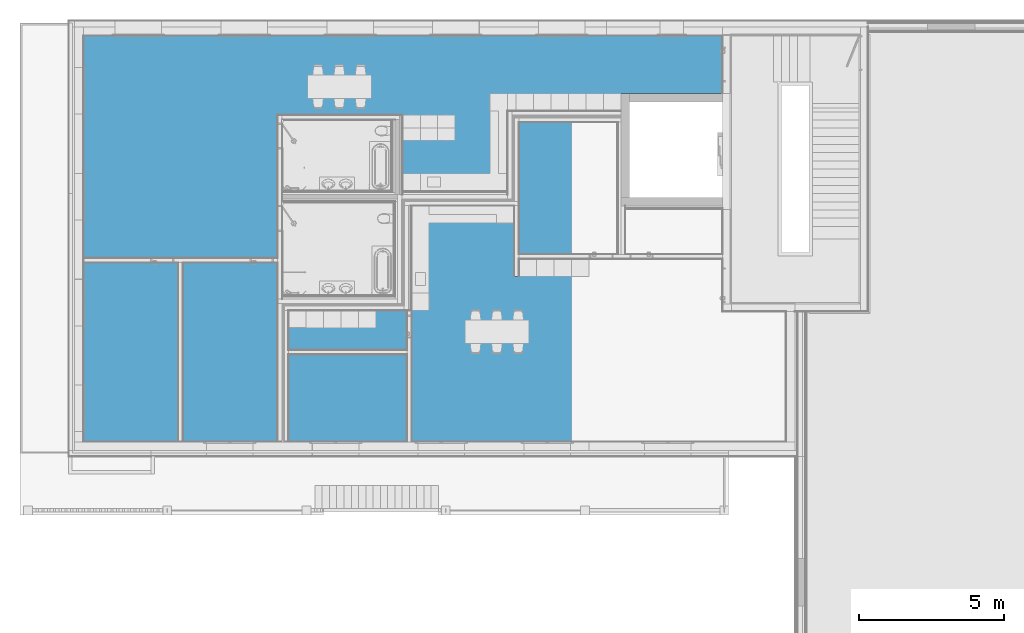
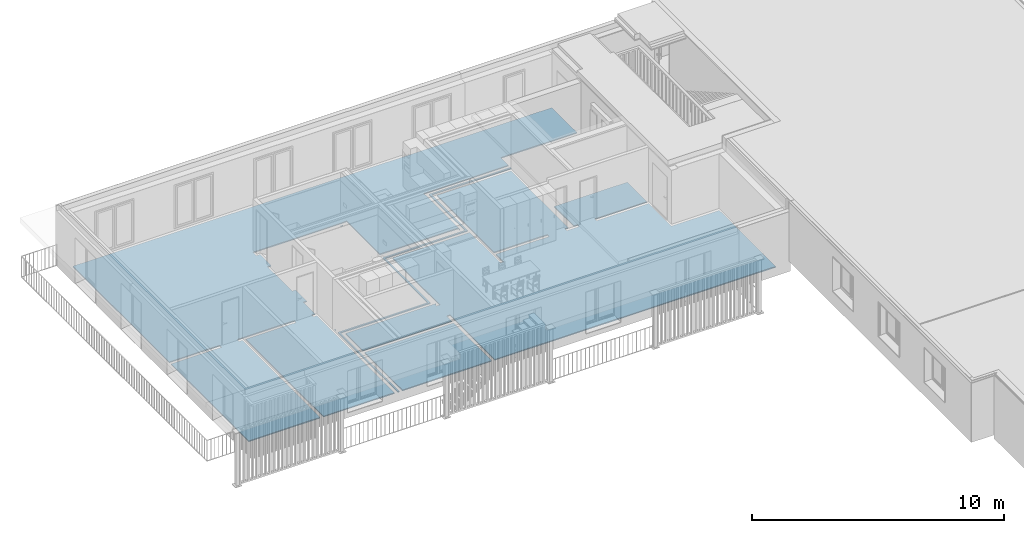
# One storey, part 10 of 34: 1 building element part, 1 element without a shape of its own.
"""IFC4 building model written with IfcOpenShell, lengths in millimetres."""

from ifc_helpers import new_model, entity, si_unit, converted_unit, derived_unit, direction, frame, origin_with_axes, place, context, subcontext, project, spatial, polygons, material, type_object, element, aggregate, save


model = new_model("IFC4")

# Units and contexts
model_context = context("Model", 3, precision=0.01, world=origin_with_axes(), true_north=direction((0.0, 1.0)))
body_context = subcontext(model_context, "Body", "Model", "MODEL_VIEW")
ifc_project = project(units=[si_unit("LENGTHUNIT", "METRE", prefix="MILLI"), si_unit("AREAUNIT", "SQUARE_METRE"), si_unit("VOLUMEUNIT", "CUBIC_METRE"), converted_unit("PLANEANGLEUNIT", "DEGREE", entity("IfcPlaneAngleMeasure", 0.0174532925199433), si_unit("PLANEANGLEUNIT", "RADIAN"), dimensions=[0, 0, 0, 0, 0, 0, 0]), converted_unit("TIMEUNIT", "Year", entity("IfcTimeMeasure", 31557600.0), si_unit("TIMEUNIT", "SECOND"), dimensions=[0, 0, 1, 0, 0, 0, 0]), si_unit("MASSUNIT", "GRAM", prefix="KILO"), si_unit("THERMODYNAMICTEMPERATUREUNIT", "DEGREE_CELSIUS"), si_unit("LUMINOUSINTENSITYUNIT", "LUMEN"), si_unit("ENERGYUNIT", "JOULE", prefix="MEGA"), derived_unit("THERMALCONDUCTANCEUNIT", [(si_unit("POWERUNIT", "WATT"), 1), (si_unit("LENGTHUNIT", "METRE"), -1), (si_unit("THERMODYNAMICTEMPERATUREUNIT", "KELVIN"), -1)]), derived_unit("SPECIFICHEATCAPACITYUNIT", [(si_unit("ENERGYUNIT", "JOULE"), 1), (si_unit("MASSUNIT", "GRAM", prefix="KILO"), -1), (si_unit("THERMODYNAMICTEMPERATUREUNIT", "KELVIN"), -1)]), derived_unit("MASSDENSITYUNIT", [(si_unit("MASSUNIT", "GRAM", prefix="KILO"), 1), (si_unit("VOLUMEUNIT", "CUBIC_METRE"), -1)])], contexts=[model_context])

# Site, building, storey
site_placement = place(None, origin_with_axes())
site = spatial("IfcSite", under=ifc_project, at=site_placement, Name="Gelände", CompositionType="ELEMENT")
building_placement = place(site_placement, origin_with_axes())
building = spatial("IfcBuilding", under=site, at=building_placement, Name="Gebäude", CompositionType="ELEMENT")
storey_placement = place(building_placement, frame((0.0, 0.0, 2900.0), z_axis=(0.0, 0.0, 1.0), x_axis=(1.0, 0.0, 0.0)))
storey = spatial("IfcBuildingStorey", under=building, at=storey_placement, Name="1.OG", CompositionType="ELEMENT", Elevation=2900.0)

# Covering, building element part
covering_type = type_object("IfcCoveringType", Name="Bodenaufbau Typ 01 150", PredefinedType="NOTDEFINED")
covering_placement = place(storey_placement, frame((-6561.004181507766, 37437.5972813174, 0.0), z_axis=(0.0, 0.0, 1.0), x_axis=(1.0, 0.0, 0.0)))
covering = element("IfcCovering", 1, at=covering_placement, inside=storey, type_object=covering_type, Name="Decke-007", PredefinedType="NOTDEFINED")
ifc_material = material(Name="Dämmung Innen")
building_element_part_placement = place(covering_placement, origin_with_axes())
building_element_part = element("IfcBuildingElementPart", 2, at=building_element_part_placement, material=ifc_material, Name="Dämmung Innen", PredefinedType="NOTDEFINED", context=body_context, shape_type="Tessellation", body=[
    polygons([(10621.77773059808, -5369.999999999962, 49.99999999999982), (10621.77773059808, -5359.999999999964, 49.99999999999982), (10611.77773059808, -5359.999999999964, 50.00000000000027), (10611.77773059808, -5369.999999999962, 49.99999999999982), (10621.77773059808, -5359.999999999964, 0.0), (10621.77773059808, -5369.999999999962, 0.0), (10611.77773059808, -5359.999999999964, 0.0), (10611.77773059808, -5369.999999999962, 0.0)], [[[1, 2, 3, 4]], [[5, 2, 1, 6]], [[2, 5, 7, 3]], [[3, 7, 8, 4]], [[6, 1, 4, 8]], [[5, 6, 8, 7]]], closed=True),
    polygons([(3419.999999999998, -7812.513021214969, 49.99999999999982), (3419.999999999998, -13980.00054054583, 50.00000000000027), (6683.999999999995, -13980.00054054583, 50.00000000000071), (6683.999999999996, -9223.223895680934, 49.99999999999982), (6683.999999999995, -9073.223895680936, 49.99999999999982), (6683.999999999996, -7812.513021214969, 49.99999999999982), (6533.999999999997, -7812.513021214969, 49.99999999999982), (6533.999999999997, -7662.513021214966, 49.99999999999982), (6683.999999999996, -7662.513021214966, 49.99999999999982), (6683.999999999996, -6734.99999999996, 49.99999999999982), (6843.999999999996, -6734.99999999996, 49.99999999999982), (6843.999999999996, -5844.99999999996, 49.99999999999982), (6683.999999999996, -5844.99999999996, 49.99999999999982), (6683.999999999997, -3898.533577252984, 49.99999999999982), (6843.999999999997, -3898.533577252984, 50.00000000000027), (6843.999999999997, -3008.533577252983, 49.99999999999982), (6683.999999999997, -3008.533577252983, 49.99999999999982), (6683.999999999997, -2743.533577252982, 49.99999999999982), (6833.999999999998, -2743.533577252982, 49.99999999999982), (10876.77773059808, -2743.533577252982, 49.99999999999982), (10876.77773059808, -2733.533577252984, 49.99999999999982), (10981.77773059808, -2733.533577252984, 49.99999999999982), (10981.77773059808, -5369.999999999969, 49.99999999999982), (14590.00162627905, -5369.999999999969, 49.99999999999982), (14590.00162627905, -5474.999999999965, 50.00000000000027), (14600.00162627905, -5474.999999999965, 49.99999999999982), (14600.00162627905, -2599.999999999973, 49.99999999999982), (14750.00162627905, -2599.999999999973, 49.99999999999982), (18490.00162627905, -2599.999999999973, 49.99999999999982), (18490.00162627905, -1989.999999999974, 49.99999999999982), (21980.00162627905, -1989.999999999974, 49.99999999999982), (21980.00162627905, 0.0, 49.99999999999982), (0.0, 0.0, 49.99999999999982), (0.0, -7662.51302121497, 49.99999999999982), (2309.999999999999, -7662.51302121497, 49.99999999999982), (2309.999999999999, -7812.513021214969, 49.99999999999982), (0.0, -7812.513021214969, 49.99999999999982), (0.0, -13980.00054054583, 49.99999999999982), (3269.999999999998, -13980.00054054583, 50.00000000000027), (3269.999999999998, -7812.513021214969, 50.00000000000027), (3110.0, -7812.513021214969, 49.99999999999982), (3110.0, -7662.51302121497, 49.99999999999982), (5733.999999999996, -7662.513021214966, 49.99999999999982), (5733.999999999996, -7812.513021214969, 49.99999999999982), (3419.999999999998, -7812.513021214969, 0.0), (3419.999999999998, -13980.00054054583, 0.0), (6683.999999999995, -13980.00054054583, 0.0), (6683.999999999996, -9223.223895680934, 0.0), (6683.999999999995, -9073.223895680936, 0.0), (6683.999999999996, -7812.513021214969, 0.0), (6533.999999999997, -7812.513021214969, 0.0), (6533.999999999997, -7662.513021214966, 0.0), (6683.999999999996, -7662.513021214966, 0.0), (6683.999999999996, -6734.99999999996, 0.0), (6843.999999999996, -6734.99999999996, 0.0), (6843.999999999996, -5844.99999999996, 0.0), (6683.999999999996, -5844.99999999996, 0.0), (6683.999999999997, -3898.533577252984, 0.0), (6843.999999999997, -3898.533577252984, 0.0), (6843.999999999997, -3008.533577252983, 0.0), (6683.999999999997, -3008.533577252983, 0.0), (6683.999999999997, -2743.533577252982, 0.0), (6833.999999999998, -2743.533577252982, 0.0), (10876.77773059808, -2743.533577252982, 0.0), (10876.77773059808, -2733.533577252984, 0.0), (10981.77773059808, -2733.533577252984, 0.0), (10981.77773059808, -5369.999999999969, 0.0), (14590.00162627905, -5369.999999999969, 0.0), (14590.00162627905, -5474.999999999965, 0.0), (14600.00162627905, -5474.999999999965, 0.0), (14600.00162627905, -2599.999999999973, 0.0), (14750.00162627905, -2599.999999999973, 0.0), (18490.00162627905, -2599.999999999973, 0.0), (18490.00162627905, -1989.999999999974, 0.0), (21980.00162627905, -1989.999999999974, 0.0), (21980.00162627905, 0.0, 0.0), (0.0, 0.0, 0.0), (0.0, -7662.51302121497, 0.0), (2309.999999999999, -7662.51302121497, 0.0), (2309.999999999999, -7812.513021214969, 0.0), (0.0, -7812.513021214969, 0.0), (0.0, -13980.00054054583, 0.0), (3269.999999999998, -13980.00054054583, 0.0), (3269.999999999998, -7812.513021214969, 0.0), (3110.0, -7812.513021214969, 0.0), (3110.0, -7662.51302121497, 0.0), (5733.999999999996, -7662.513021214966, 0.0), (5733.999999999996, -7812.513021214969, 0.0)], [[[1, 2, 3, 4, 5, 6, 7, 8, 9, 10, 11, 12, 13, 14, 15, 16, 17, 18, 19, 20, 21, 22, 23, 24, 25, 26, 27, 28, 29, 30, 31, 32, 33, 34, 35, 36, 37, 38, 39, 40, 41, 42, 43, 44]], [[2, 1, 45, 46]], [[2, 46, 47, 3]], [[48, 4, 3, 47]], [[4, 48, 49, 5]], [[5, 49, 50, 6]], [[6, 50, 51, 7]], [[8, 7, 51, 52]], [[53, 9, 8, 52]], [[10, 9, 53, 54]], [[11, 10, 54, 55]], [[11, 55, 56, 12]], [[57, 13, 12, 56]], [[14, 13, 57, 58]], [[15, 14, 58, 59]], [[15, 59, 60, 16]], [[61, 17, 16, 60]], [[18, 17, 61, 62]], [[63, 19, 18, 62]], [[64, 20, 19, 63]], [[21, 20, 64, 65]], [[66, 22, 21, 65]], [[23, 22, 66, 67]], [[23, 67, 68, 24]], [[24, 68, 69, 25]], [[25, 69, 70, 26]], [[26, 70, 71, 27]], [[72, 28, 27, 71]], [[28, 72, 73, 29]], [[29, 73, 74, 30]], [[30, 74, 75, 31]], [[31, 75, 76, 32]], [[32, 76, 77, 33]], [[78, 34, 33, 77]], [[35, 34, 78, 79]], [[36, 35, 79, 80]], [[37, 36, 80, 81]], [[37, 81, 82, 38]], [[83, 39, 38, 82]], [[84, 40, 39, 83]], [[40, 84, 85, 41]], [[42, 41, 85, 86]], [[43, 42, 86, 87]], [[44, 43, 87, 88]], [[45, 1, 44, 88]], [[46, 45, 88, 87, 86, 85, 84, 83, 82, 81, 80, 79, 78, 77, 76, 75, 74, 73, 72, 71, 70, 69, 68, 67, 66, 65, 64, 63, 62, 61, 60, 59, 58, 57, 56, 55, 54, 53, 52, 51, 50, 49, 48, 47]]], closed=True),
    polygons([(10726.77773059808, -2903.533577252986, 50.00000000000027), (10726.77773059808, -2893.533577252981, 50.00000000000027), (10611.77773059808, -2893.533577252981, 50.00000000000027), (10611.77773059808, -2903.533577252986, 50.00000000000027), (10726.77773059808, -2903.533577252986, 0.0), (10726.77773059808, -2893.533577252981, 0.0), (10611.77773059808, -2893.533577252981, 0.0), (10611.77773059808, -2903.533577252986, 0.0)], [[[1, 2, 3, 4]], [[1, 5, 6, 2]], [[2, 6, 7, 3]], [[8, 4, 3, 7]], [[5, 1, 4, 8]], [[5, 8, 7, 6]]], closed=True),
    polygons([(6843.999999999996, -9073.223895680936, 49.99999999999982), (6843.999999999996, -8958.223895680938, 50.00000000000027), (6833.999999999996, -8958.223895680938, 49.99999999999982), (6833.999999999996, -9073.223895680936, 49.99999999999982), (6843.999999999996, -9073.223895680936, 0.0), (6843.999999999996, -8958.223895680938, 0.0), (6833.999999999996, -8958.223895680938, 0.0), (6833.999999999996, -9073.223895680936, 0.0)], [[[1, 2, 3, 4]], [[2, 1, 5, 6]], [[2, 6, 7, 3]], [[8, 4, 3, 7]], [[5, 1, 4, 8]], [[5, 8, 7, 6]]], closed=True),
    polygons([(6903.999981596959, -13980.00054054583, 49.99999999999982), (6903.999981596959, -9453.223895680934, 49.99999999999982), (6903.999981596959, -9303.223895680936, 49.99999999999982), (11037.0, -9303.223895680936, 49.99999999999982), (11037.0, -5854.999999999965, 49.99999999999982), (11037.0, -5704.999999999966, 49.99999999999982), (14830.00162627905, -5704.999999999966, 50.00000000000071), (14830.00162627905, -2829.999999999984, 49.99999999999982), (14980.00162627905, -2829.999999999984, 49.99999999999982), (18490.00162627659, -2829.999999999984, 49.99999999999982), (18490.00162627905, -2749.999999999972, 49.99999999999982), (14750.00162627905, -2749.999999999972, 49.99999999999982), (14750.00162627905, -5624.999999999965, 49.99999999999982), (14600.00162627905, -5624.999999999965, 49.99999999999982), (10957.0, -5624.999999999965, 49.99999999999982), (10957.0, -9223.223895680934, 49.99999999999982), (10807.0, -9223.223895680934, 49.99999999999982), (6833.999999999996, -9223.223895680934, 49.99999999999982), (6833.999999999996, -13980.00054054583, 49.99999999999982), (6903.999981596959, -9453.223895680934, 0.0), (6903.999981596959, -13980.00054054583, 0.0), (6903.999981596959, -9303.223895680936, 0.0), (11037.0, -9303.223895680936, 0.0), (11037.0, -5854.999999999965, 0.0), (11037.0, -5704.999999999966, 0.0), (14830.00162627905, -5704.999999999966, 0.0), (14830.00162627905, -2829.999999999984, 0.0), (14980.00162627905, -2829.999999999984, 0.0), (18490.00162627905, -2829.999999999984, 0.0), (18490.00162627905, -2749.999999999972, 0.0), (14750.00162627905, -2749.999999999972, 0.0), (14750.00162627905, -5624.999999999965, 0.0), (14600.00162627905, -5624.999999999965, 0.0), (10957.0, -5624.999999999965, 0.0), (10957.0, -9223.223895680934, 0.0), (10807.0, -9223.223895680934, 0.0), (6833.999999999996, -9223.223895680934, 0.0), (6833.999999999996, -13980.00054054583, 0.0)], [[[1, 2, 3, 4, 5, 6, 7, 8, 9, 10, 11, 12, 13, 14, 15, 16, 17, 18, 19]], [[20, 2, 1, 21]], [[2, 20, 22, 3]], [[23, 4, 3, 22]], [[4, 23, 24, 5]], [[5, 24, 25, 6]], [[26, 7, 6, 25]], [[8, 7, 26, 27]], [[28, 9, 8, 27]], [[29, 10, 9, 28]], [[10, 29, 30, 11]], [[31, 12, 11, 30]], [[13, 12, 31, 32]], [[33, 14, 13, 32]], [[15, 14, 33, 34]], [[15, 34, 35, 16]], [[36, 17, 16, 35]], [[37, 18, 17, 36]], [[19, 18, 37, 38]], [[21, 1, 19, 38]], [[20, 21, 38, 37, 36, 35, 34, 33, 32, 31, 30, 29, 28, 27, 26, 25, 24, 23, 22]]], closed=True),
    polygons([(11142.0, -10970.00054054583, 0.0), (11142.0, -10970.00054054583, 49.99999999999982), (11142.0, -13980.00054054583, 49.99999999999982), (11142.0, -13980.00054054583, 0.0), (7053.999981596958, -10970.00054054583, 49.99999999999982), (7053.999981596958, -10970.00054054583, 0.0), (7053.999981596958, -13980.00054054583, 49.99999999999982), (7053.999981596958, -13980.00054054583, 0.0)], [[[1, 2, 3, 4]], [[5, 2, 1, 6]], [[2, 5, 7, 3]], [[4, 3, 7, 8]], [[6, 1, 4, 8]], [[5, 6, 8, 7]]], closed=True),
    polygons([(7053.999981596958, -10820.00054054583, 49.99999999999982), (11142.0, -10820.00054054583, 49.99999999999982), (11142.0, -10413.22389568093, 49.99999999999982), (11292.0, -10413.22389568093, 49.99999999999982), (11292.0, -13980.00054054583, 50.00000000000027), (24181.00162627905, -13980.00054054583, 49.99999999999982), (24181.00162627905, -9489.999999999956, 49.99999999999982), (21990.00162627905, -9489.999999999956, 49.99999999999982), (21990.00162627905, -7680.00000076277, 49.99999999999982), (19600.00162627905, -7680.000000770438, 49.99999999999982), (19600.00162627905, -7529.999999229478, 49.99999999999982), (21990.00162627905, -7529.999998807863, 49.99999999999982), (21990.00162627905, -5969.99999999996, 49.99999999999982), (18640.00162627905, -5969.99999999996, 49.99999999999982), (18640.00162627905, -7529.999999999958, 49.99999999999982), (18800.00162627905, -7529.999999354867, 49.99999999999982), (18800.00162627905, -7680.000000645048, 49.99999999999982), (18225.00162627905, -7680.00000055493, 49.99999999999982), (18225.00162627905, -7529.999999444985, 49.99999999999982), (18385.00162627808, -7529.999999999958, 49.99999999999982), (18385.00162626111, -2979.999999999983, 49.99999999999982), (14980.00162627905, -2979.999999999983, 49.99999999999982), (14980.00162627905, -5704.999999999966, 49.99999999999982), (14980.00162627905, -5854.999999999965, 49.99999999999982), (14980.00162627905, -7529.999999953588, 49.99999999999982), (17425.00162627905, -7529.999999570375, 49.99999999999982), (17425.00162627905, -7680.000000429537, 49.99999999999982), (14980.00162627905, -7680.000000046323, 49.99999999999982), (14980.00162627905, -8287.999999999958, 49.99999999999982), (14830.00162627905, -8287.999999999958, 49.99999999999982), (14830.00162627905, -5854.999999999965, 49.99999999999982), (11292.0, -5854.999999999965, 50.00000000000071), (11292.0, -9613.223895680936, 49.99999999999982), (11142.0, -9613.223895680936, 49.99999999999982), (11142.0, -9463.223895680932, 49.99999999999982), (11187.0, -9463.223895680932, 49.99999999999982), (11187.0, -9453.223895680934, 49.99999999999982), (11037.0, -9453.223895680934, 49.99999999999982), (7053.999981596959, -9453.223895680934, 49.99999999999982), (11142.0, -10820.00054054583, 0.0), (7053.999981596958, -10820.00054054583, 0.0), (11142.0, -10413.22389568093, 0.0), (11292.0, -10413.22389568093, 0.0), (11292.0, -13980.00054054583, 0.0), (24181.00162627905, -13980.00054054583, 0.0), (24181.00162627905, -9489.999999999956, 0.0), (21990.00162627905, -9489.999999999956, 0.0), (21990.00162627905, -7680.000001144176, 0.0), (19600.00162627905, -7680.00000076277, 0.0), (19600.00162627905, -7529.999999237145, 0.0), (21990.00162627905, -7529.999998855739, 0.0), (21990.00162627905, -5969.99999999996, 0.0), (18640.00162627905, -5969.99999999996, 0.0), (18640.00162627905, -7529.999999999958, 0.0), (18800.00162627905, -7529.999999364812, 0.0), (18800.00162627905, -7680.000000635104, 0.0), (18225.00162627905, -7680.000000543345, 0.0), (18225.00162627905, -7529.999999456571, 0.0), (18385.00162627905, -7529.999999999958, 0.0), (18385.00162627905, -2979.999999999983, 0.0), (14980.00162627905, -2979.999999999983, 0.0), (14980.00162627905, -5704.999999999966, 0.0), (14980.00162627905, -5854.999999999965, 0.0), (14980.00162627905, -7529.999999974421, 0.0), (17425.00162627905, -7529.999999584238, 0.0), (17425.00162627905, -7680.000000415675, 0.0), (14980.00162627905, -7680.00000002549, 0.0), (14980.00162627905, -8287.999999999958, 0.0), (14830.00162627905, -8287.999999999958, 0.0), (14830.00162627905, -5854.999999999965, 0.0), (11292.0, -5854.999999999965, 0.0), (11292.0, -9613.223895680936, 0.0), (11142.0, -9613.223895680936, 0.0), (11142.0, -9463.223895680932, 0.0), (11187.0, -9463.223895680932, 0.0), (11187.0, -9453.223895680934, 0.0), (11037.0, -9453.223895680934, 0.0), (7053.999981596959, -9453.223895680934, 0.0)], [[[1, 2, 3, 4, 5, 6, 7, 8, 9, 10, 11, 12, 13, 14, 15, 16, 17, 18, 19, 20, 21, 22, 23, 24, 25, 26, 27, 28, 29, 30, 31, 32, 33, 34, 35, 36, 37, 38, 39]], [[40, 2, 1, 41]], [[2, 40, 42, 3]], [[4, 3, 42, 43]], [[5, 4, 43, 44]], [[5, 44, 45, 6]], [[6, 45, 46, 7]], [[7, 46, 47, 8]], [[48, 9, 8, 47]], [[10, 9, 48, 49]], [[11, 10, 49, 50]], [[51, 12, 11, 50]], [[52, 13, 12, 51]], [[14, 13, 52, 53]], [[14, 53, 54, 15]], [[15, 54, 55, 16]], [[17, 16, 55, 56]], [[18, 17, 56, 57]], [[19, 18, 57, 58]], [[59, 20, 19, 58]], [[60, 21, 20, 59]], [[22, 21, 60, 61]], [[22, 61, 62, 23]], [[23, 62, 63, 24]], [[24, 63, 64, 25]], [[25, 64, 65, 26]], [[27, 26, 65, 66]], [[67, 28, 27, 66]], [[29, 28, 67, 68]], [[30, 29, 68, 69]], [[70, 31, 30, 69]], [[71, 32, 31, 70]], [[71, 72, 33, 32]], [[34, 33, 72, 73]], [[35, 34, 73, 74]], [[75, 36, 35, 74]], [[36, 75, 76, 37]], [[77, 38, 37, 76]], [[78, 39, 38, 77]], [[41, 1, 39, 78]], [[40, 41, 78, 77, 76, 75, 74, 73, 72, 71, 70, 69, 68, 67, 66, 65, 64, 63, 62, 61, 60, 59, 58, 57, 56, 55, 54, 53, 52, 51, 50, 49, 48, 47, 46, 45, 44, 43, 42]]], closed=True),
])
aggregate(covering, [building_element_part])

save(model, "model.ifc")
